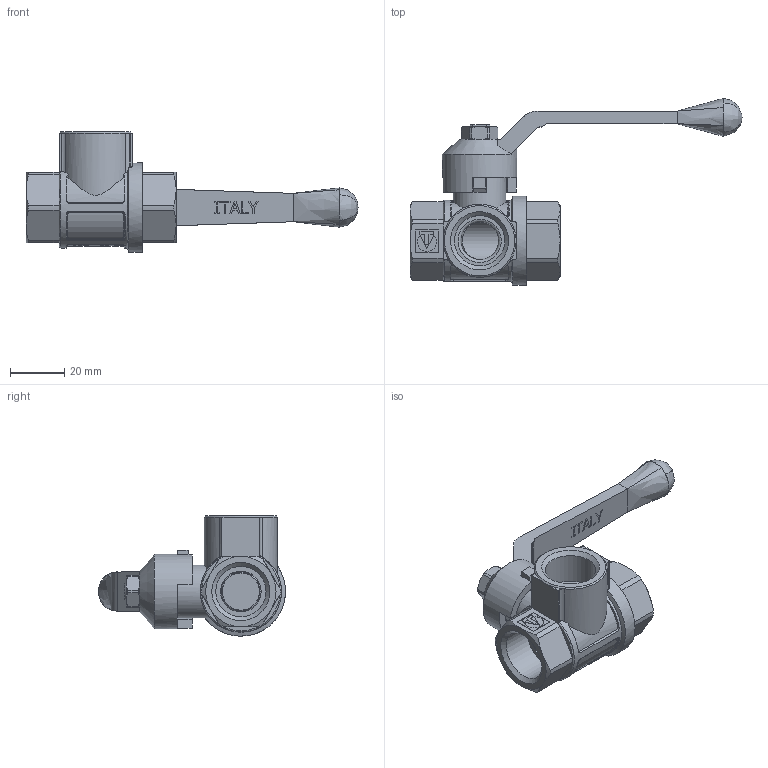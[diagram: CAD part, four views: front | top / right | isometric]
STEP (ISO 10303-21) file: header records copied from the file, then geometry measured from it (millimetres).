
FILE_DESCRIPTION(/* description */ (''),/* implementation_level */ '2;1');
FILE_NAME(/* name */ 'E:\Артём\00000\Работа удаленка\VT.360.N.04.stp',/* time_stamp */ '2020-04-28T12:04:18+03:00',/* author */ ('BeN_GaN'),/* organization */ (''),/* preprocessor_version */ 'ST-DEVELOPER v18',/* originating_system */ 'Autodesk Inventor 2020',/* authorisation */ '');
FILE_SCHEMA (('AUTOMOTIVE_DESIGN { 1 0 10303 214 3 1 1 }'));
Length unit declared in the file: millimetre
Products named in the file (1): VT.360.N.04
Bounding box: 122.75 x 69.14 x 44.5 mm (x, y, z)
Volume: 42502.9 mm3; surface area: 23626.8 mm2
Topology: 1 solids, 6 shells, 558 faces, 1497 edges, 977 vertices
Faces by surface type: plane 287, cylinder 137, bspline 61, cone 49, torus 21, sphere 3
Full cylindrical faces by diameter (mm): 9.5 x2, 10 x1, 12 x1, 12.5 x1, 14 x3, 14.5 x1, 15 x4, 15.4 x2, 18.6 x3, 19.5 x1, 21.5 x1, 22 x4, 25.5 x1, 27.5 x1, 33 x1
Entity records: 19965 total; most frequent: CARTESIAN_POINT 6234, ORIENTED_EDGE 2988, DIRECTION 2741, EDGE_CURVE 1494, AXIS2_PLACEMENT_3D 1030, VERTEX_POINT 977, LINE 681, VECTOR 681
